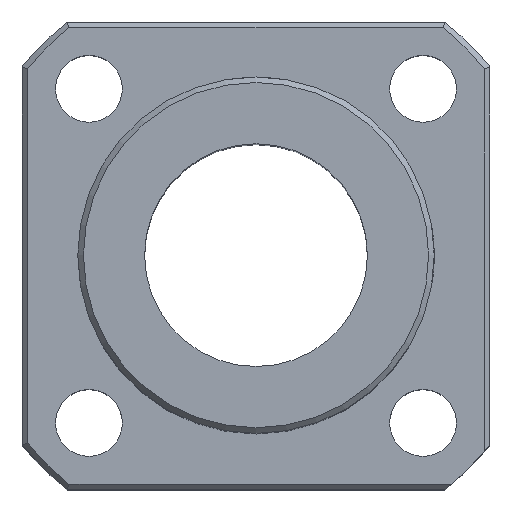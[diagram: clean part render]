
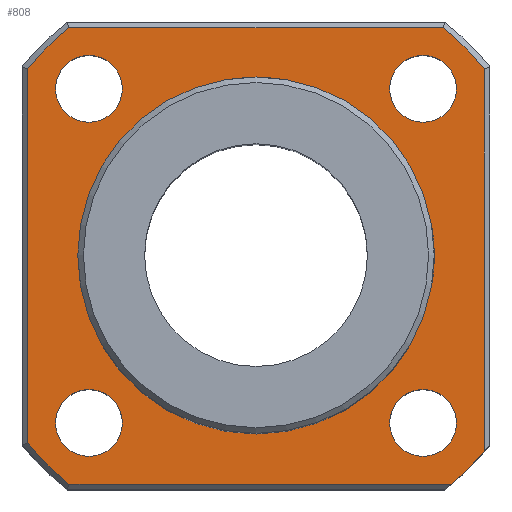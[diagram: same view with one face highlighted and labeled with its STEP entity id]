
A CAD part, top view. The second image highlights one B-rep face of the part: STEP entity #808.
In plain terms, the highlighted planar face has unit normal (0, 0, 1).
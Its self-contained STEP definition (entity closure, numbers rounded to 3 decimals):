
#531=CARTESIAN_POINT('',(17.571,-20.5,14.));
#532=VERTEX_POINT('',#531);
#540=CARTESIAN_POINT('',(-16.793,-20.5,14.));
#541=VERTEX_POINT('',#540);
#542=CARTESIAN_POINT('',(17.571,-20.5,14.));
#543=DIRECTION('',(-1.0,0.0,0.0));
#544=VECTOR('',#543,34.364);
#545=LINE('',#542,#544);
#546=EDGE_CURVE('',#532,#541,#545,.T.);
#571=CARTESIAN_POINT('',(-20.5,-16.793,14.));
#572=VERTEX_POINT('',#571);
#573=CARTESIAN_POINT('',(0.0,0.0,14.));
#574=DIRECTION('',(0.0,0.0,-1.0));
#575=DIRECTION('',(-1.0,0.0,0.0));
#576=AXIS2_PLACEMENT_3D('',#573,#574,#575);
#577=CIRCLE('',#576,26.5);
#578=EDGE_CURVE('',#541,#572,#577,.T.);
#603=CARTESIAN_POINT('',(-20.5,16.793,14.));
#604=VERTEX_POINT('',#603);
#605=CARTESIAN_POINT('',(-20.5,-16.793,14.));
#606=DIRECTION('',(0.0,1.0,0.0));
#607=VECTOR('',#606,33.586);
#608=LINE('',#605,#607);
#609=EDGE_CURVE('',#572,#604,#608,.T.);
#628=CARTESIAN_POINT('',(-16.793,20.5,14.));
#629=VERTEX_POINT('',#628);
#630=CARTESIAN_POINT('',(0.0,0.0,14.));
#631=DIRECTION('',(0.0,0.0,-1.0));
#632=DIRECTION('',(-1.0,0.0,0.0));
#633=AXIS2_PLACEMENT_3D('',#630,#631,#632);
#634=CIRCLE('',#633,26.5);
#635=EDGE_CURVE('',#604,#629,#634,.T.);
#654=CARTESIAN_POINT('',(16.793,20.5,14.));
#655=VERTEX_POINT('',#654);
#656=CARTESIAN_POINT('',(-16.793,20.5,14.));
#657=DIRECTION('',(1.0,0.0,0.0));
#658=VECTOR('',#657,33.586);
#659=LINE('',#656,#658);
#660=EDGE_CURVE('',#629,#655,#659,.T.);
#679=CARTESIAN_POINT('',(20.5,16.793,14.));
#680=VERTEX_POINT('',#679);
#681=CARTESIAN_POINT('',(0.0,0.0,14.));
#682=DIRECTION('',(0.0,0.0,-1.0));
#683=DIRECTION('',(1.0,0.0,0.0));
#684=AXIS2_PLACEMENT_3D('',#681,#682,#683);
#685=CIRCLE('',#684,26.5);
#686=EDGE_CURVE('',#655,#680,#685,.T.);
#705=CARTESIAN_POINT('',(20.5,-17.571,14.));
#706=VERTEX_POINT('',#705);
#723=CARTESIAN_POINT('',(20.5,16.793,14.));
#724=DIRECTION('',(0.0,-1.0,0.0));
#725=VECTOR('',#724,34.364);
#726=LINE('',#723,#725);
#727=EDGE_CURVE('',#680,#706,#726,.T.);
#732=CARTESIAN_POINT('',(0.,0.,14.));
#733=DIRECTION('',(0.0,0.0,1.0));
#734=DIRECTION('',(1.0,0.0,0.0));
#735=AXIS2_PLACEMENT_3D('',#732,#733,#734);
#736=PLANE('',#735);
#737=ORIENTED_EDGE('',*,*,#727,.F.);
#738=ORIENTED_EDGE('',*,*,#686,.F.);
#739=ORIENTED_EDGE('',*,*,#660,.F.);
#740=ORIENTED_EDGE('',*,*,#635,.F.);
#741=ORIENTED_EDGE('',*,*,#609,.F.);
#742=ORIENTED_EDGE('',*,*,#578,.F.);
#743=ORIENTED_EDGE('',*,*,#546,.F.);
#744=CARTESIAN_POINT('',(0.0,0.0,14.));
#745=DIRECTION('',(0.0,0.0,-1.0));
#746=DIRECTION('',(1.0,0.0,0.0));
#747=AXIS2_PLACEMENT_3D('',#744,#745,#746);
#748=CIRCLE('',#747,27.0);
#749=EDGE_CURVE('',#706,#532,#748,.T.);
#750=ORIENTED_EDGE('',*,*,#749,.F.);
#751=EDGE_LOOP('',(#737,#738,#739,#740,#741,#742,#743,#750));
#752=FACE_OUTER_BOUND('',#751,.T.);
#753=CARTESIAN_POINT('',(16.0,0.,14.));
#754=VERTEX_POINT('',#753);
#755=CARTESIAN_POINT('',(0.0,0.0,14.));
#756=DIRECTION('',(0.0,0.0,-1.0));
#757=DIRECTION('',(-1.0,0.0,0.0));
#758=AXIS2_PLACEMENT_3D('',#755,#756,#757);
#759=CIRCLE('',#758,16.0);
#760=EDGE_CURVE('',#754,#754,#759,.T.);
#761=ORIENTED_EDGE('',*,*,#760,.T.);
#762=EDGE_LOOP('',(#761));
#763=FACE_BOUND('',#762,.T.);
#764=CARTESIAN_POINT('',(-18.0,15.0,14.));
#765=VERTEX_POINT('',#764);
#766=CARTESIAN_POINT('',(-15.0,15.0,14.));
#767=DIRECTION('',(0.0,0.0,-1.0));
#768=DIRECTION('',(1.0,0.0,0.0));
#769=AXIS2_PLACEMENT_3D('',#766,#767,#768);
#770=CIRCLE('',#769,3.);
#771=EDGE_CURVE('',#765,#765,#770,.T.);
#772=ORIENTED_EDGE('',*,*,#771,.T.);
#773=EDGE_LOOP('',(#772));
#774=FACE_BOUND('',#773,.T.);
#775=CARTESIAN_POINT('',(12.,15.0,14.));
#776=VERTEX_POINT('',#775);
#777=CARTESIAN_POINT('',(15.0,15.0,14.));
#778=DIRECTION('',(0.0,0.0,-1.0));
#779=DIRECTION('',(1.0,0.0,0.0));
#780=AXIS2_PLACEMENT_3D('',#777,#778,#779);
#781=CIRCLE('',#780,3.);
#782=EDGE_CURVE('',#776,#776,#781,.T.);
#783=ORIENTED_EDGE('',*,*,#782,.T.);
#784=EDGE_LOOP('',(#783));
#785=FACE_BOUND('',#784,.T.);
#786=CARTESIAN_POINT('',(-18.0,-15.0,14.));
#787=VERTEX_POINT('',#786);
#788=CARTESIAN_POINT('',(-15.0,-15.0,14.));
#789=DIRECTION('',(0.0,0.0,-1.0));
#790=DIRECTION('',(1.0,0.0,0.0));
#791=AXIS2_PLACEMENT_3D('',#788,#789,#790);
#792=CIRCLE('',#791,3.);
#793=EDGE_CURVE('',#787,#787,#792,.T.);
#794=ORIENTED_EDGE('',*,*,#793,.T.);
#795=EDGE_LOOP('',(#794));
#796=FACE_BOUND('',#795,.T.);
#797=CARTESIAN_POINT('',(12.,-15.0,14.));
#798=VERTEX_POINT('',#797);
#799=CARTESIAN_POINT('',(15.0,-15.0,14.));
#800=DIRECTION('',(0.0,0.0,-1.0));
#801=DIRECTION('',(1.0,0.0,0.0));
#802=AXIS2_PLACEMENT_3D('',#799,#800,#801);
#803=CIRCLE('',#802,3.);
#804=EDGE_CURVE('',#798,#798,#803,.T.);
#805=ORIENTED_EDGE('',*,*,#804,.T.);
#806=EDGE_LOOP('',(#805));
#807=FACE_BOUND('',#806,.T.);
#808=ADVANCED_FACE('',(#752,#763,#774,#785,#796,#807),#736,.T.);
